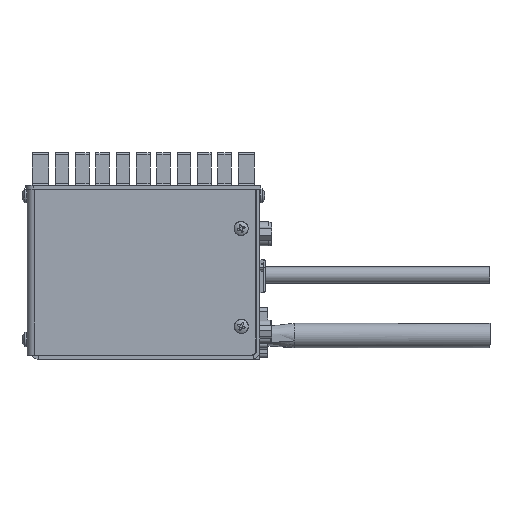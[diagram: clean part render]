
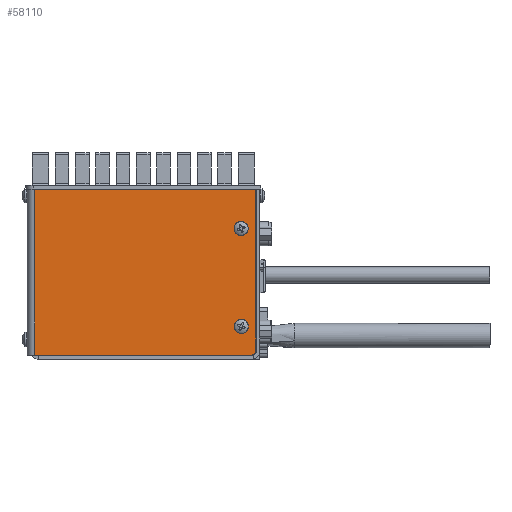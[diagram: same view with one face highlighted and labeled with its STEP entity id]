
A CAD part, left-side view. The second image highlights one B-rep face of the part: STEP entity #58110.
In plain terms, the highlighted planar face has unit normal (-1, 0, 0).
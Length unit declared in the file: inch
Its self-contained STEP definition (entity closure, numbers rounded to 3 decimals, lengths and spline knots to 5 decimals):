
#4258=PLANE('',#62873);
#7926=VECTOR('',#74548,1.);
#7933=VECTOR('',#74602,1.);
#7934=VECTOR('',#74603,1.);
#7935=VECTOR('',#74604,1.);
#11935=LINE('',#103936,#7926);
#11942=LINE('',#103984,#7933);
#11943=LINE('',#103986,#7934);
#11944=LINE('',#103988,#7935);
#17556=VERTEX_POINT('',#103914);
#17557=VERTEX_POINT('',#103916);
#17565=VERTEX_POINT('',#103937);
#17568=VERTEX_POINT('',#103945);
#17569=VERTEX_POINT('',#103948);
#17581=VERTEX_POINT('',#103985);
#17582=VERTEX_POINT('',#103987);
#20572=CIRCLE('',#62842,0.1778);
#20579=CIRCLE('',#62852,0.15875);
#20580=CIRCLE('',#62854,0.14224);
#28618=EDGE_CURVE('',#17557,#17556,#20572,.T.);
#28629=EDGE_CURVE('',#17557,#17565,#11935,.T.);
#28633=EDGE_CURVE('',#17568,#17568,#20579,.T.);
#28634=EDGE_CURVE('',#17569,#17569,#20580,.T.);
#28650=EDGE_CURVE('',#17581,#17556,#11942,.T.);
#28651=EDGE_CURVE('',#17582,#17581,#11943,.T.);
#28652=EDGE_CURVE('',#17565,#17582,#11944,.T.);
#45092=ORIENTED_EDGE('',*,*,#28618,.T.);
#45093=ORIENTED_EDGE('',*,*,#28650,.F.);
#45094=ORIENTED_EDGE('',*,*,#28651,.F.);
#45095=ORIENTED_EDGE('',*,*,#28652,.F.);
#45096=ORIENTED_EDGE('',*,*,#28629,.F.);
#45097=ORIENTED_EDGE('',*,*,#28633,.T.);
#45098=ORIENTED_EDGE('',*,*,#28634,.T.);
#50394=EDGE_LOOP('',(#45092,#45093,#45094,#45095,#45096));
#50395=EDGE_LOOP('',(#45097));
#50396=EDGE_LOOP('',(#45098));
#54509=FACE_BOUND('',#50394,.T.);
#54510=FACE_BOUND('',#50395,.T.);
#54511=FACE_BOUND('',#50396,.T.);
#58110=ADVANCED_FACE('',(#54509,#54510,#54511),#4258,.F.);
#62842=AXIS2_PLACEMENT_3D('',#103915,#74530,#74531);
#62852=AXIS2_PLACEMENT_3D('',#103944,#74556,#74557);
#62854=AXIS2_PLACEMENT_3D('',#103947,#74560,#74561);
#62873=AXIS2_PLACEMENT_3D('',#103983,#74601,$);
#74530=DIRECTION('',(-1.,0.,0.));
#74531=DIRECTION('',(0.,0.,0.178));
#74548=DIRECTION('',(0.,0.,-1.));
#74556=DIRECTION('',(1.,0.,0.));
#74557=DIRECTION('',(0.,0.,0.159));
#74560=DIRECTION('',(1.,0.,0.));
#74561=DIRECTION('',(0.,0.,0.142));
#74601=DIRECTION('',(1.,0.,0.));
#74602=DIRECTION('',(0.,-1.,0.));
#74603=DIRECTION('',(0.,0.,1.));
#74604=DIRECTION('',(0.,1.,0.));
#103914=CARTESIAN_POINT('',(-4.2164,-3.048,8.9154));
#103915=CARTESIAN_POINT('',(-4.2164,-3.048,8.7376));
#103916=CARTESIAN_POINT('',(-4.2164,-3.2258,8.7376));
#103936=CARTESIAN_POINT('',(-4.2164,-3.2258,0.14561));
#103937=CARTESIAN_POINT('',(-4.2164,-3.2258,0.3048));
#103944=CARTESIAN_POINT('',(-4.2164,-2.1082,8.32866));
#103945=CARTESIAN_POINT('',(-4.2164,-2.1082,8.48741));
#103947=CARTESIAN_POINT('',(-4.2164,1.7018,8.32866));
#103948=CARTESIAN_POINT('',(-4.2164,1.7018,8.4709));
#103983=CARTESIAN_POINT('',(-4.2164,0.,4.5305));
#103984=CARTESIAN_POINT('',(-4.2164,-3.2258,8.9154));
#103985=CARTESIAN_POINT('',(-4.2164,3.2258,8.9154));
#103986=CARTESIAN_POINT('',(-4.2164,3.2258,8.9154));
#103987=CARTESIAN_POINT('',(-4.2164,3.2258,0.3048));
#103988=CARTESIAN_POINT('',(-4.2164,0.,0.3048));
